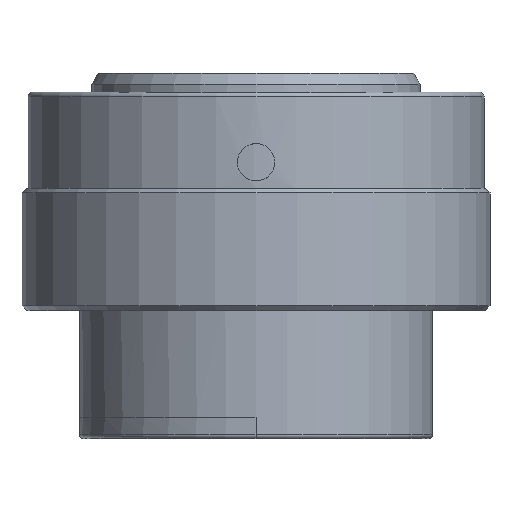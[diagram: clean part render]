
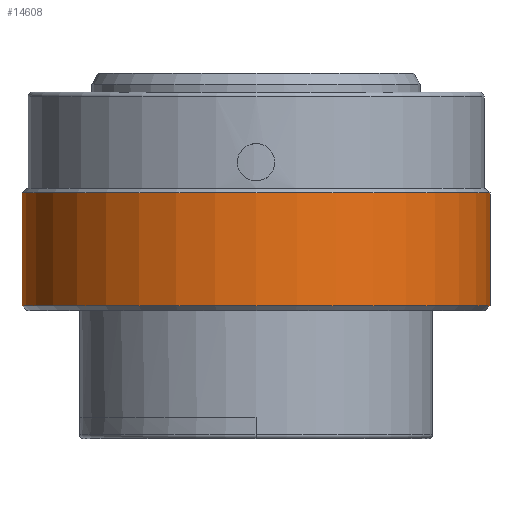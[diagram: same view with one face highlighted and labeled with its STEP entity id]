
A CAD part, left-side view. The second image highlights one B-rep face of the part: STEP entity #14608.
In plain terms, the highlighted cylindrical face has radius 24.765 mm (diameter 49.53 mm), a partial arc.
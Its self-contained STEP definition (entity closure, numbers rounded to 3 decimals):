
#5682=CARTESIAN_POINT('',(0.,0.,-10.668));
#5683=DIRECTION('',(0.,0.,1.));
#5684=DIRECTION('',(0.,1.,0.));
#5685=AXIS2_PLACEMENT_3D('',#5682,#5683,#5684);
#5687=DIRECTION('',(0.,0.,1.));
#5688=VECTOR('',#5687,11.938);
#5689=CARTESIAN_POINT('',(0.,-24.765,-22.606));
#5690=LINE('',#5689,#5688);
#5691=CARTESIAN_POINT('',(0.,0.,-22.606));
#5692=DIRECTION('',(0.,0.,1.));
#5693=DIRECTION('',(0.,1.,0.));
#5694=AXIS2_PLACEMENT_3D('',#5691,#5692,#5693);
#5696=DIRECTION('',(0.,0.,1.));
#5697=VECTOR('',#5696,11.938);
#5698=CARTESIAN_POINT('',(0.,24.765,-22.606));
#5699=LINE('',#5698,#5697);
#5934=CARTESIAN_POINT('',(0.,-24.765,-10.668));
#5935=CARTESIAN_POINT('',(0.,24.765,-10.668));
#5936=VERTEX_POINT('',#5934);
#5937=VERTEX_POINT('',#5935);
#5938=CARTESIAN_POINT('',(0.,-24.765,-22.606));
#5939=CARTESIAN_POINT('',(0.,24.765,-22.606));
#5940=VERTEX_POINT('',#5938);
#5941=VERTEX_POINT('',#5939);
#14596=CARTESIAN_POINT('',(0.,0.,1.156));
#14597=DIRECTION('',(0.,0.,-1.));
#14598=DIRECTION('',(0.,-1.,0.));
#14599=AXIS2_PLACEMENT_3D('',#14596,#14597,#14598);
#14600=CYLINDRICAL_SURFACE('',#14599,24.765);
#14601=ORIENTED_EDGE('',*,*,#14590,.T.);
#14602=ORIENTED_EDGE('',*,*,#8271,.F.);
#14604=ORIENTED_EDGE('',*,*,#14603,.F.);
#14605=ORIENTED_EDGE('',*,*,#8268,.T.);
#14606=EDGE_LOOP('',(#14601,#14602,#14604,#14605));
#14607=FACE_OUTER_BOUND('',#14606,.F.);
#14608=ADVANCED_FACE('',(#14607),#14600,.T.);
#5686=CIRCLE('',#5685,24.765);
#5695=CIRCLE('',#5694,24.765);
#8268=EDGE_CURVE('',#5941,#5937,#5699,.T.);
#8271=EDGE_CURVE('',#5940,#5936,#5690,.T.);
#14590=EDGE_CURVE('',#5937,#5936,#5686,.T.);
#14603=EDGE_CURVE('',#5941,#5940,#5695,.T.);
